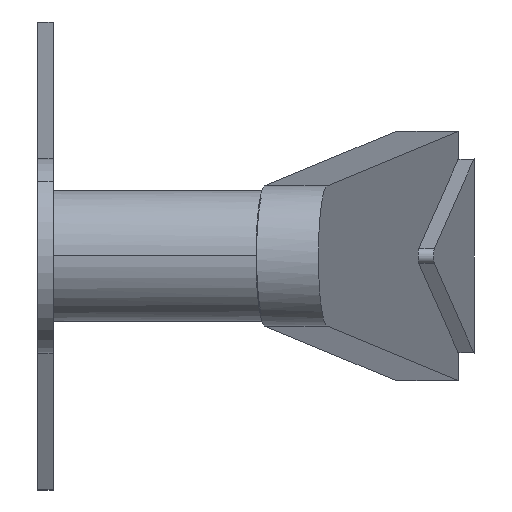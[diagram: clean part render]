
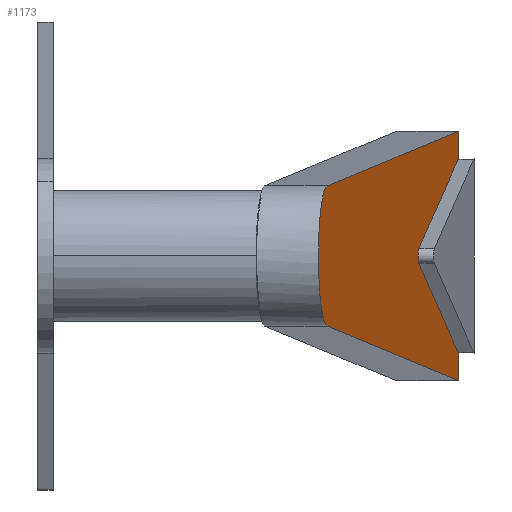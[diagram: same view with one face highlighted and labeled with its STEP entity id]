
A CAD part, left-side view. The second image highlights one B-rep face of the part: STEP entity #1173.
In plain terms, the highlighted planar face has unit normal (-0.131, -0.991, 0).
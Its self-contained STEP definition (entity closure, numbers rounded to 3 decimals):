
#541 = VERTEX_POINT( '', #1511 );
#555 = EDGE_CURVE( '', #1011, #951, #1525, .T. );
#589 = EDGE_CURVE( '', #1023, #541, #1561, .T. );
#769 = EDGE_CURVE( '', #1221, #1003, #1758, .T. );
#829 = VERTEX_POINT( '', #1825 );
#885 = EDGE_CURVE( '', #541, #829, #1887, .T. );
#913 = EDGE_CURVE( '', #979, #1023, #1916, .T. );
#951 = VERTEX_POINT( '', #1954 );
#953 = EDGE_CURVE( '', #1003, #1381, #1956, .T. );
#979 = VERTEX_POINT( '', #1983 );
#985 = EDGE_CURVE( '', #1321, #1207, #1989, .T. );
#1003 = VERTEX_POINT( '', #2009 );
#1011 = VERTEX_POINT( '', #2019 );
#1023 = VERTEX_POINT( '', #2032 );
#1039 = EDGE_CURVE( '', #1273, #1011, #2048, .T. );
#1055 = EDGE_CURVE( '', #979, #951, #2064, .T. );
#1173 = ADVANCED_FACE( '', ( #2199 ), #2200, .T. );
#1207 = VERTEX_POINT( '', #2244 );
#1221 = VERTEX_POINT( '', #2258 );
#1227 = EDGE_CURVE( '', #1221, #1207, #2264, .T. );
#1263 = EDGE_CURVE( '', #1381, #1273, #2304, .T. );
#1265 = EDGE_CURVE( '', #829, #1321, #2306, .T. );
#1273 = VERTEX_POINT( '', #2314 );
#1321 = VERTEX_POINT( '', #2368 );
#1381 = VERTEX_POINT( '', #2435 );
#1511 = CARTESIAN_POINT( '', ( -0.246, -18.559, 4.493 ) );
#1525 = ELLIPSE( '', #2598, 2.017, 2. );
#1561 = LINE( '', #2654, #2655 );
#1758 = ELLIPSE( '', #2932, 2.017, 2. );
#1825 = CARTESIAN_POINT( '', ( -0.246, -18.559, -4.493 ) );
#1887 = ELLIPSE( '', #3102, 4.539, 4.5 );
#1916 = ELLIPSE( '', #3143, 6.052, 6. );
#1954 = CARTESIAN_POINT( '', ( 63.739, -26.983, 6.233 ) );
#1956 = LINE( '', #3200, #3201 );
#1983 = CARTESIAN_POINT( '', ( 63.739, -26.983, 7.994 ) );
#1989 = ELLIPSE( '', #3248, 6.052, 6. );
#2009 = CARTESIAN_POINT( '', ( 63.403, -26.939, -6.159 ) );
#2019 = CARTESIAN_POINT( '', ( 63.403, -26.939, 6.159 ) );
#2032 = CARTESIAN_POINT( '', ( 63.672, -26.974, 7.991 ) );
#2048 = LINE( '', #3325, #3326 );
#2064 = LINE( '', #3355, #3356 );
#2199 = FACE_OUTER_BOUND( '', #3533, .T. );
#2200 = PLANE( '', #3534 );
#2244 = CARTESIAN_POINT( '', ( 63.739, -26.983, -7.994 ) );
#2258 = CARTESIAN_POINT( '', ( 63.739, -26.983, -6.233 ) );
#2264 = LINE( '', #3610, #3611 );
#2304 = ELLIPSE( '', #3665, 0.504, 0.5 );
#2306 = LINE( '', #3668, #3669 );
#2314 = CARTESIAN_POINT( '', ( 44.351, -24.43, 0.477 ) );
#2368 = CARTESIAN_POINT( '', ( 63.672, -26.974, -7.991 ) );
#2435 = CARTESIAN_POINT( '', ( 44.351, -24.43, -0.477 ) );
#2598 = AXIS2_PLACEMENT_3D( '', #4001, #4002, #4003 );
#2654 = CARTESIAN_POINT( '', ( 21.548, -21.428, 5.686 ) );
#2655 = VECTOR( '', #4043, 1. );
#2932 = AXIS2_PLACEMENT_3D( '', #4266, #4267, #4268 );
#3102 = AXIS2_PLACEMENT_3D( '', #4409, #4410, #4411 );
#3143 = AXIS2_PLACEMENT_3D( '', #4438, #4439, #4440 );
#3200 = CARTESIAN_POINT( '', ( 29.709, -22.503, 3.889 ) );
#3201 = VECTOR( '', #4454, 1. );
#3248 = AXIS2_PLACEMENT_3D( '', #4477, #4478, #4479 );
#3325 = CARTESIAN_POINT( '', ( 23.028, -21.623, -5.882 ) );
#3326 = VECTOR( '', #4541, 1. );
#3355 = CARTESIAN_POINT( '', ( 63.739, -26.983, 10. ) );
#3356 = VECTOR( '', #4555, 1. );
#3533 = EDGE_LOOP( '', ( #4754, #4755, #4756, #4757, #4758, #4759, #4760, #4761, #4762, #4763, #4764, #4765 ) );
#3534 = AXIS2_PLACEMENT_3D( '', #4766, #4767, #4768 );
#3610 = CARTESIAN_POINT( '', ( 63.739, -26.983, 10. ) );
#3611 = VECTOR( '', #4868, 1. );
#3665 = AXIS2_PLACEMENT_3D( '', #4915, #4916, #4917 );
#3668 = CARTESIAN_POINT( '', ( -10.404, -17.222, -3.937 ) );
#3669 = VECTOR( '', #4918, 1. );
#4001 = CARTESIAN_POINT( '', ( 64., -27.017, 4.25 ) );
#4002 = DIRECTION( '', ( 0.131, 0.991, 0. ) );
#4003 = DIRECTION( '', ( -0.991, 0.131, 0. ) );
#4043 = DIRECTION( '', ( -0.99, 0.13, -0.054 ) );
#4266 = CARTESIAN_POINT( '', ( 64., -27.017, -4.25 ) );
#4267 = DIRECTION( '', ( 0.131, 0.991, 0. ) );
#4268 = DIRECTION( '', ( 0.991, -0.131, 0. ) );
#4409 = CARTESIAN_POINT( '', ( 0., -18.591, 0. ) );
#4410 = DIRECTION( '', ( -0.131, -0.991, 0. ) );
#4411 = DIRECTION( '', ( -0.991, 0.131, 0. ) );
#4438 = CARTESIAN_POINT( '', ( 64., -27.017, 2. ) );
#4439 = DIRECTION( '', ( -0.131, -0.991, 0. ) );
#4440 = DIRECTION( '', ( -0.991, 0.131, 0. ) );
#4454 = DIRECTION( '', ( -0.951, 0.125, 0.284 ) );
#4477 = CARTESIAN_POINT( '', ( 64., -27.017, -2. ) );
#4478 = DIRECTION( '', ( -0.131, -0.991, 0. ) );
#4479 = DIRECTION( '', ( 0.991, -0.131, 0. ) );
#4541 = DIRECTION( '', ( 0.951, -0.125, 0.284 ) );
#4555 = DIRECTION( '', ( 0., 0., -1. ) );
#4754 = ORIENTED_EDGE( '', *, *, #1265, .T. );
#4755 = ORIENTED_EDGE( '', *, *, #985, .T. );
#4756 = ORIENTED_EDGE( '', *, *, #1227, .F. );
#4757 = ORIENTED_EDGE( '', *, *, #769, .T. );
#4758 = ORIENTED_EDGE( '', *, *, #953, .T. );
#4759 = ORIENTED_EDGE( '', *, *, #1263, .T. );
#4760 = ORIENTED_EDGE( '', *, *, #1039, .T. );
#4761 = ORIENTED_EDGE( '', *, *, #555, .T. );
#4762 = ORIENTED_EDGE( '', *, *, #1055, .F. );
#4763 = ORIENTED_EDGE( '', *, *, #913, .T. );
#4764 = ORIENTED_EDGE( '', *, *, #589, .T. );
#4765 = ORIENTED_EDGE( '', *, *, #885, .T. );
#4766 = CARTESIAN_POINT( '', ( -4.5, -17.999, 10. ) );
#4767 = DIRECTION( '', ( -0.131, -0.991, 0. ) );
#4768 = DIRECTION( '', ( -0.991, 0.131, 0. ) );
#4868 = DIRECTION( '', ( 0., 0., -1. ) );
#4915 = CARTESIAN_POINT( '', ( 44.5, -24.45, 0. ) );
#4916 = DIRECTION( '', ( 0.131, 0.991, 0. ) );
#4917 = DIRECTION( '', ( -0.991, 0.131, 0. ) );
#4918 = DIRECTION( '', ( 0.99, -0.13, -0.054 ) );
